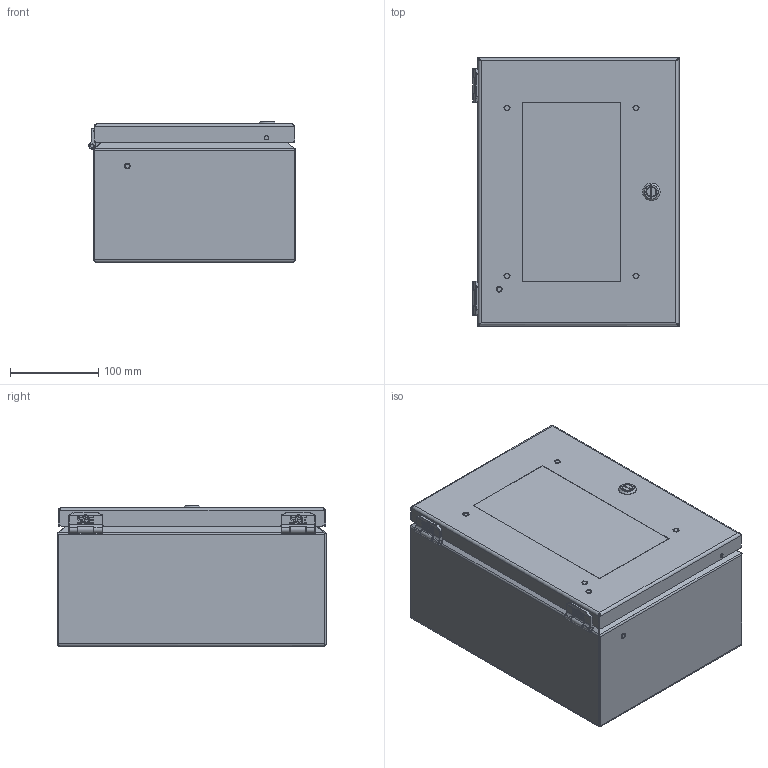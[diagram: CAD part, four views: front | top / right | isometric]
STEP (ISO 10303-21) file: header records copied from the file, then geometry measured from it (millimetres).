
FILE_DESCRIPTION((''),'2;1');
FILE_NAME('MODEL-096_ASM','2021-05-27T12:40:52',('chads'),('SAGINAW CONTROL & ENGINEERING'),'CREO PARAMETRIC BY PTC INC, 2017260','CREO PARAMETRIC BY PTC INC, 2017260','');
FILE_SCHEMA(('AUTOMOTIVE_DESIGN { 1 0 10303 214 1 1 1 1 }'));
Length unit declared in the file: inch
Products named in the file (29): MODEL-096-BDY; MODEL-096-DR; 112643-BOX-LEAF; 112643-BOX-LEAF-STUD; 112643-BOX_ASM; 112643-DOOR-LEAF; 112643-DOOR-LEAF-STUD; 112643-DOOR_ASM; 112643-PIN; 112643_ASM; 113152; 100063; 112987_SHAFT; 112987_INSERT; 112984; 112987_SCREW; 112987_NUT; 112987_ASM; 100009; MODEL-096-GSKT; MODEL-096-LEX; 100011; 117899; 118662; 120706; CH-ELJ_SUBPANEL; 102479; CH-ELJ_SUBPANEL-SUBASSEMBLY_ASM; MODEL-096_ASM
Assembly tree (48 placements, depth 4):
  MODEL-096_ASM
    MODEL-096-BDY
    MODEL-096-DR
    112643_ASM  x2
      112643-BOX_ASM
        112643-BOX-LEAF
        112643-BOX-LEAF-STUD
      112643-DOOR_ASM
        112643-DOOR-LEAF
        112643-DOOR-LEAF-STUD
      112643-PIN
    113152  x4
    100063  x2
    112987_ASM
      112987_SHAFT
      112987_INSERT
      112984
      112987_SCREW
      112987_NUT
    100009  x4
    MODEL-096-GSKT
    MODEL-096-LEX
    100011  x4
    117899  x4
    118662  x4
    120706
    CH-ELJ_SUBPANEL-SUBASSEMBLY_ASM
      CH-ELJ_SUBPANEL
      102479  x4
Bounding box: 234.2 x 304.9 x 159.91 mm (x, y, z)
Volume: 798865.5 mm3; surface area: 831071.2 mm2
Topology: 47 solids, 49 shells, 3263 faces, 8327 edges, 5112 vertices
Faces by surface type: plane 1129, cylinder 962, bspline 870, cone 150, torus 124, sphere 28
Entity records: 105843 total; most frequent: CARTESIAN_POINT 55537, ORIENTED_EDGE 7446, DIRECTION 6436, EDGE_CURVE 3723, PRESENTATION_STYLE_ASSIGNMENT 3283, STYLED_ITEM 3283, CURVE_STYLE 3000, AXIS2_PLACEMENT_3D 2380
